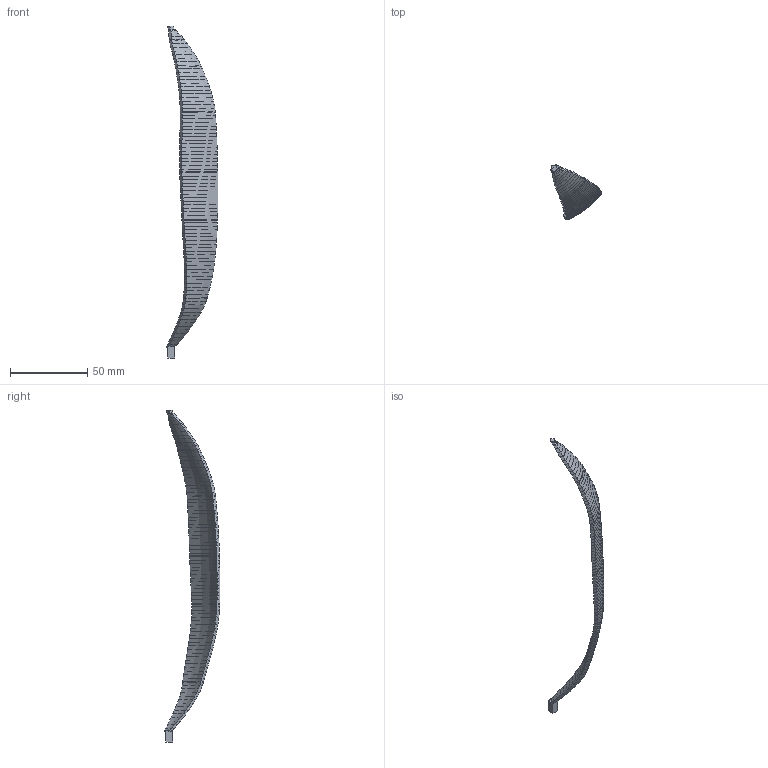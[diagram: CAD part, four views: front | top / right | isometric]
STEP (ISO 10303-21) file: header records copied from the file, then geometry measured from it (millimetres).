
FILE_DESCRIPTION(('Open CASCADE Model'),'2;1');
FILE_NAME('Open CASCADE Shape Model','2026-11-18T16:59:34',('Author'),( 'Open CASCADE'),'Open CASCADE STEP processor 7.9','Open CASCADE 7.9' ,'Unknown');
FILE_SCHEMA(('AUTOMOTIVE_DESIGN { 1 0 10303 214 1 1 1 1 }'));
Length unit declared in the file: millimetre
Products named in the file (1): Open CASCADE STEP translator 7.9 4
Bounding box: 33.56 x 36.16 x 214.6 mm (x, y, z)
Volume: 10680.7 mm3; surface area: 10848.1 mm2
Topology: 1 solids, 1 shells, 404 faces, 818 edges, 416 vertices
Faces by surface type: bspline 392, plane 12
Entity records: 33595 total; most frequent: CARTESIAN_POINT 19264, DIRECTION 1650, ORIENTED_EDGE 1636, PCURVE 1636, DEFINITIONAL_REPRESENTATION 1636, LINE 1624, VECTOR 1624, B_SPLINE_CURVE_WITH_KNOTS 830
